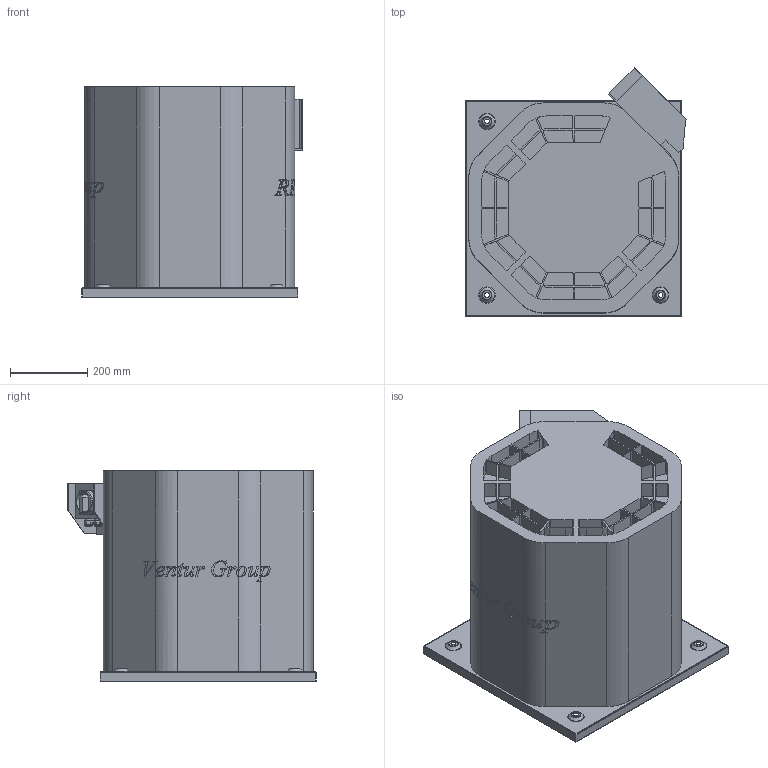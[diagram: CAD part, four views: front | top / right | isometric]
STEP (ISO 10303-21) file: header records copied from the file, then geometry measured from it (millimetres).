
FILE_DESCRIPTION(/* description */ (''),/* implementation_level */ '2;1');
FILE_NAME(/* name */ 'E:\Mariusz\Modele uproszczone\RFHT\RFHT_x_280 43534012\RFHT_x_280 43534012\RFHT_x_280 43534012.stp',/* time_stamp */ '2018-06-11T10:11:52+02:00',/* author */ ('M.Janczarek'),/* organization */ (''),/* preprocessor_version */ 'ST-DEVELOPER v16.5',/* originating_system */ 'Autodesk Inventor 2017',/* authorisation */ '');
FILE_SCHEMA (('AUTOMOTIVE_DESIGN { 1 0 10303 214 3 1 1 }'));
Length unit declared in the file: millimetre
Products named in the file (1): RFHT_x_280 43534012
Bounding box: 571.49 x 643.45 x 545 mm (x, y, z)
Volume: 126768480.1 mm3; surface area: 2019724.7 mm2
Topology: 1 solids, 1 shells, 1360 faces, 3765 edges, 2487 vertices
Faces by surface type: plane 719, bspline 326, cylinder 228, cone 64, torus 23
Full cylindrical faces by diameter (mm): 4.5 x2, 6.186 x1, 12.4 x4, 13.5 x1, 17.2 x2, 19 x2, 20 x1, 23 x1, 52 x1, 55 x1, 56.5 x1, 60 x1
Entity records: 46747 total; most frequent: CARTESIAN_POINT 13411, ORIENTED_EDGE 7420, DIRECTION 5755, EDGE_CURVE 3710, VERTEX_POINT 2483, LINE 2213, VECTOR 2213, AXIS2_PLACEMENT_3D 1771
